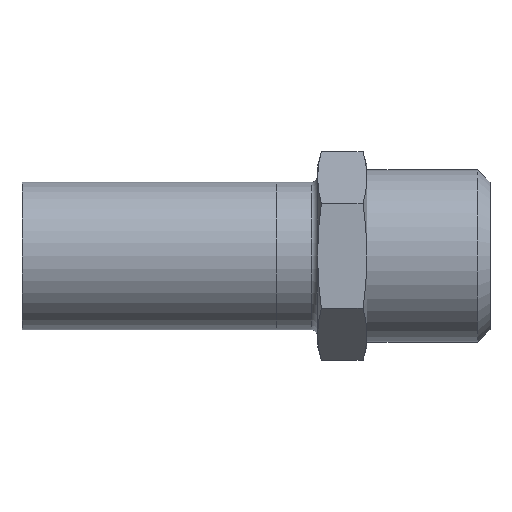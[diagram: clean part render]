
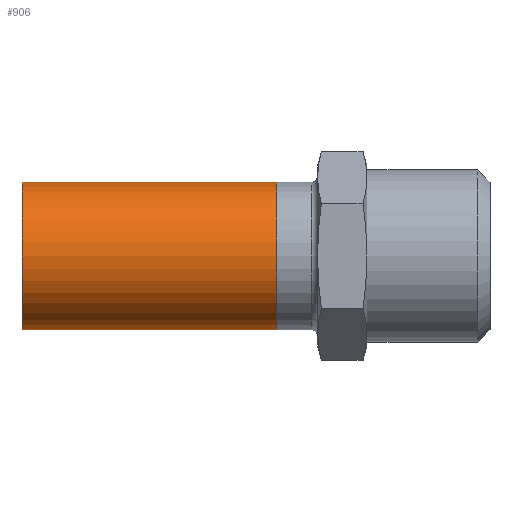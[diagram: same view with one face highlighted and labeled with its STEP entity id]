
A CAD part, front view. The second image highlights one B-rep face of the part: STEP entity #906.
In plain terms, the highlighted cylindrical face has radius 9 mm (diameter 18 mm), a partial arc.
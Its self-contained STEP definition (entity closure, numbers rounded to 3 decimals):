
#19 = EDGE_CURVE ( 'NONE', #515, #867, #374, .T. ) ;
#60 = CARTESIAN_POINT ( 'NONE',  ( 0., 0., 0. ) ) ;
#130 = CYLINDRICAL_SURFACE ( 'NONE', #859, 9. ) ;
#146 = LINE ( 'NONE', #335, #269 ) ;
#160 = ORIENTED_EDGE ( 'NONE', *, *, #19, .F. ) ;
#269 = VECTOR ( 'NONE', #465, 1000. ) ;
#305 = DIRECTION ( 'NONE',  ( 0., 0., -1. ) ) ;
#306 = CARTESIAN_POINT ( 'NONE',  ( 9., 0., 31. ) ) ;
#335 = CARTESIAN_POINT ( 'NONE',  ( -9., 0., 31. ) ) ;
#348 = AXIS2_PLACEMENT_3D ( 'NONE', #60, #908, #442 ) ;
#374 = LINE ( 'NONE', #306, #411 ) ;
#375 = AXIS2_PLACEMENT_3D ( 'NONE', #784, #435, #1262 ) ;
#411 = VECTOR ( 'NONE', #895, 1000. ) ;
#435 = DIRECTION ( 'NONE',  ( 0., 0., 1. ) ) ;
#442 = DIRECTION ( 'NONE',  ( 1., 0., 0. ) ) ;
#447 = ORIENTED_EDGE ( 'NONE', *, *, #1431, .T. ) ;
#452 = EDGE_CURVE ( 'NONE', #1088, #1450, #146, .T. ) ;
#465 = DIRECTION ( 'NONE',  ( 0., 0., -1. ) ) ;
#500 = ORIENTED_EDGE ( 'NONE', *, *, #926, .F. ) ;
#515 = VERTEX_POINT ( 'NONE', #622 ) ;
#531 = CARTESIAN_POINT ( 'NONE',  ( 0., 0., 31. ) ) ;
#602 = CIRCLE ( 'NONE', #375, 9. ) ;
#622 = CARTESIAN_POINT ( 'NONE',  ( 9., 0., 31. ) ) ;
#644 = CARTESIAN_POINT ( 'NONE',  ( 9., 0., 0. ) ) ;
#784 = CARTESIAN_POINT ( 'NONE',  ( 0., 0., 31. ) ) ;
#859 = AXIS2_PLACEMENT_3D ( 'NONE', #531, #305, #1373 ) ;
#867 = VERTEX_POINT ( 'NONE', #644 ) ;
#895 = DIRECTION ( 'NONE',  ( 0., 0., -1. ) ) ;
#906 = ADVANCED_FACE ( 'NONE', ( #1338 ), #130, .T. ) ;
#908 = DIRECTION ( 'NONE',  ( 0., 0., 1. ) ) ;
#926 = EDGE_CURVE ( 'NONE', #1088, #515, #602, .T. ) ;
#1059 = CARTESIAN_POINT ( 'NONE',  ( -9., 0., 31. ) ) ;
#1088 = VERTEX_POINT ( 'NONE', #1059 ) ;
#1139 = CARTESIAN_POINT ( 'NONE',  ( -9., 0., 0. ) ) ;
#1218 = EDGE_LOOP ( 'NONE', ( #160, #500, #1292, #447 ) ) ;
#1262 = DIRECTION ( 'NONE',  ( 1., 0., 0. ) ) ;
#1292 = ORIENTED_EDGE ( 'NONE', *, *, #452, .T. ) ;
#1321 = CIRCLE ( 'NONE', #348, 9. ) ;
#1338 = FACE_OUTER_BOUND ( 'NONE', #1218, .T. ) ;
#1373 = DIRECTION ( 'NONE',  ( -1., 0., 0. ) ) ;
#1431 = EDGE_CURVE ( 'NONE', #1450, #867, #1321, .T. ) ;
#1450 = VERTEX_POINT ( 'NONE', #1139 ) ;
